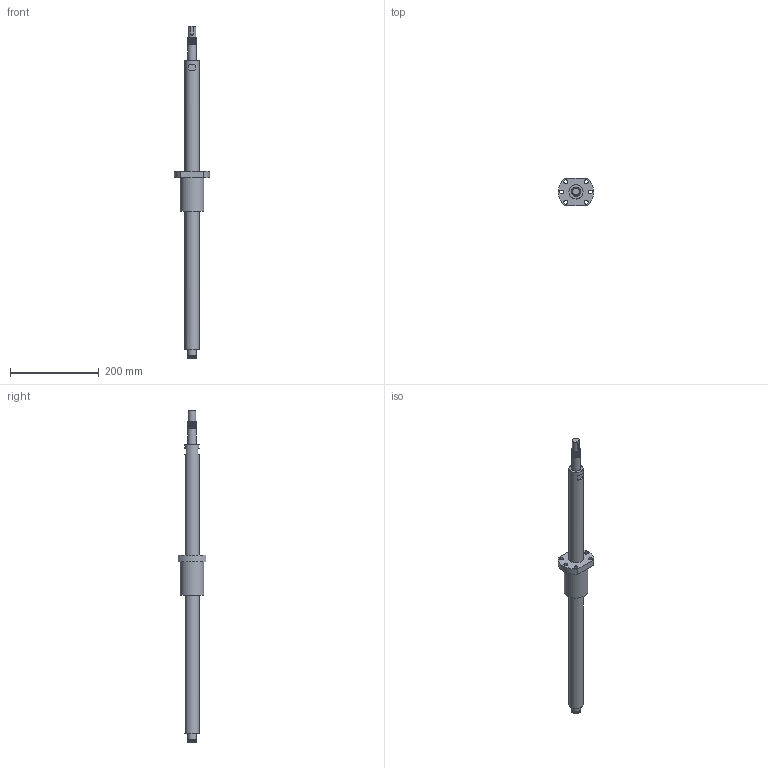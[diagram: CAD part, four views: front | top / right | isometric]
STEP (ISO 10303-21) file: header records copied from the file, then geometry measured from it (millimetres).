
FILE_DESCRIPTION(/* description */ (''),/* implementation_level */ '2;1');
FILE_NAME(/* name */ 'BSG433_asm1.stp',/* time_stamp */ '2017-01-12T15:50:21+08:00',/* author */ (''),/* organization */ (''),/* preprocessor_version */ 'ST-DEVELOPER v15',/* originating_system */ 'SIEMENS PLM Software NX 8.5',/* authorisation */ '');
FILE_SCHEMA (('AUTOMOTIVE_DESIGN { 1 0 10303 214 3 1 1 1 }'));
Length unit declared in the file: millimetre
Products named in the file (3): 01; BSG433; BSG433_asm1
Assembly tree (2 placements, depth 2):
  BSG433_asm1
    BSG433
    01
Bounding box: 79.74 x 62 x 750 mm (x, y, z)
Volume: 705129.5 mm3; surface area: 108012.5 mm2
Topology: 2 solids, 2 shells, 51 faces, 123 edges, 84 vertices
Faces by surface type: cylinder 24, plane 23, bspline 2, cone 2
Full cylindrical faces by diameter (mm): 9 x6, 17 x1, 19 x1, 20 x8, 32 x2, 53 x1
Entity records: 2679 total; most frequent: CARTESIAN_POINT 1653, DIRECTION 202, ORIENTED_EDGE 162, AXIS2_PLACEMENT_3D 87, EDGE_LOOP 82, EDGE_CURVE 81, VERTEX_POINT 63, FACE_BOUND 60
